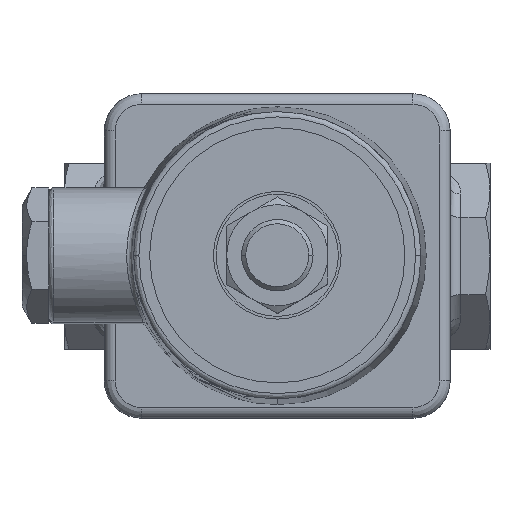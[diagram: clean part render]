
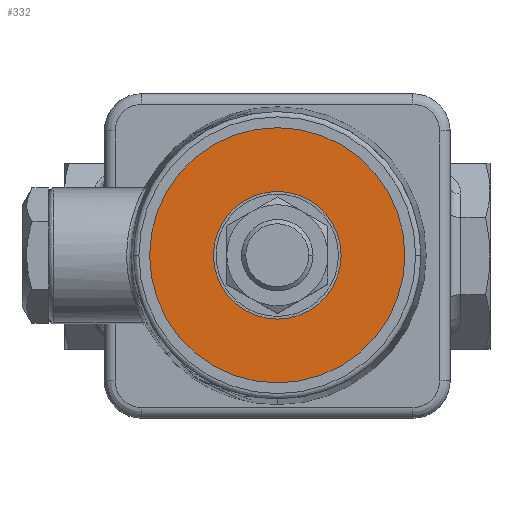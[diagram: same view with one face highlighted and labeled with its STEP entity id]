
A CAD part, top view. The second image highlights one B-rep face of the part: STEP entity #332.
In plain terms, the highlighted planar face has unit normal (0, 0, 1).
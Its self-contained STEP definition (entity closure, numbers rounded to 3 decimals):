
#332=ADVANCED_FACE('',(#3343,#3344),#3342,.F.);
#3342=PLANE('',#7344);
#3343=FACE_OUTER_BOUND('',#7345,.T.);
#3344=FACE_BOUND('',#7346,.T.);
#7341=CARTESIAN_POINT('',(55.2,-49.883,96.));
#7342=DIRECTION('',(0.,0.,-1.));
#7343=DIRECTION('',(-1.,0.,0.));
#7344=AXIS2_PLACEMENT_3D('',#7341,#7342,#7343);
#7345=EDGE_LOOP('',(#9299,#9300));
#7346=EDGE_LOOP('',(#9301,#9302));
#9299=ORIENTED_EDGE('',*,*,#10376,.F.);
#9300=ORIENTED_EDGE('',*,*,#10377,.F.);
#9301=ORIENTED_EDGE('',*,*,#10378,.T.);
#9302=ORIENTED_EDGE('',*,*,#10379,.T.);
#10376=EDGE_CURVE('',#15531,#15532,#15533,.T.);
#10377=EDGE_CURVE('',#15532,#15531,#15539,.T.);
#10378=EDGE_CURVE('',#15545,#15546,#15547,.T.);
#10379=EDGE_CURVE('',#15546,#15545,#15553,.T.);
#15531=VERTEX_POINT('',#20422);
#15532=VERTEX_POINT('',#20423);
#15533=CIRCLE('',#20427,24.);
#15539=CIRCLE('',#20431,24.);
#15545=VERTEX_POINT('',#20432);
#15546=VERTEX_POINT('',#20433);
#15547=CIRCLE('',#20437,12.);
#15553=CIRCLE('',#20441,12.);
#20422=CARTESIAN_POINT('',(24.,0.,96.));
#20423=CARTESIAN_POINT('',(-24.,0.,96.));
#20424=CARTESIAN_POINT('',(0.,0.,96.));
#20425=DIRECTION('',(0.,0.,-1.));
#20426=DIRECTION('',(-1.,0.,0.));
#20427=AXIS2_PLACEMENT_3D('',#20424,#20425,#20426);
#20428=CARTESIAN_POINT('',(0.,0.,96.));
#20429=DIRECTION('',(0.,0.,-1.));
#20430=DIRECTION('',(-1.,0.,0.));
#20431=AXIS2_PLACEMENT_3D('',#20428,#20429,#20430);
#20432=CARTESIAN_POINT('',(-12.,0.,96.));
#20433=CARTESIAN_POINT('',(12.,0.,96.));
#20434=CARTESIAN_POINT('',(0.,0.,96.));
#20435=DIRECTION('',(0.,0.,-1.));
#20436=DIRECTION('',(-1.,0.,0.));
#20437=AXIS2_PLACEMENT_3D('',#20434,#20435,#20436);
#20438=CARTESIAN_POINT('',(0.,0.,96.));
#20439=DIRECTION('',(0.,0.,-1.));
#20440=DIRECTION('',(-1.,0.,0.));
#20441=AXIS2_PLACEMENT_3D('',#20438,#20439,#20440);
